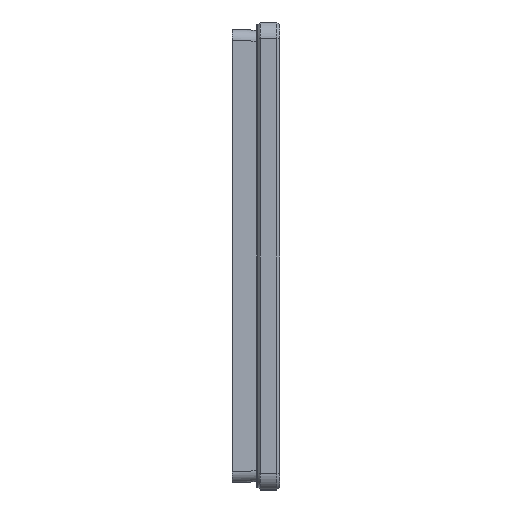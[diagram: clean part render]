
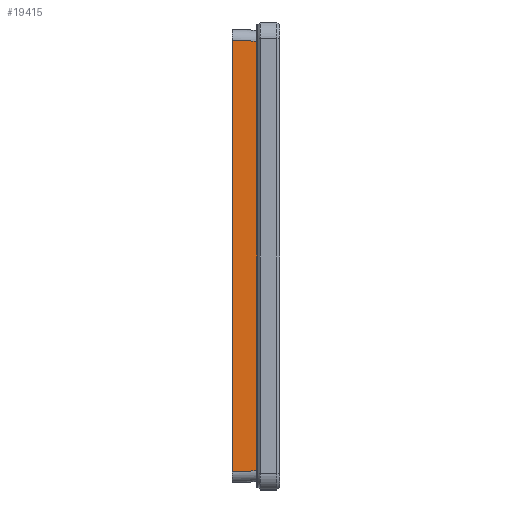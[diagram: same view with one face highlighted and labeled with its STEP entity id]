
A CAD part, left-side view. The second image highlights one B-rep face of the part: STEP entity #19415.
In plain terms, the highlighted planar face has unit normal (-0.999, -0.044, 0) as drawn and (0.999, 0.044, 0) by its records, which use the part's own axes.
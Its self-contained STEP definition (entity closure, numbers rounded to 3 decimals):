
#462=PLANE('',#20728);
#2032=FACE_OUTER_BOUND('',#3154,.T.);
#3154=EDGE_LOOP('',(#15798,#15799,#15800,#15801));
#4888=LINE('',#32996,#6800);
#4890=LINE('',#33002,#6802);
#4891=LINE('',#33004,#6803);
#4892=LINE('',#33005,#6804);
#6800=VECTOR('',#23903,4.509);
#6802=VECTOR('',#23909,78.004);
#6803=VECTOR('',#23910,4.509);
#6804=VECTOR('',#23911,78.397);
#9086=VERTEX_POINT('',#32993);
#9087=VERTEX_POINT('',#32995);
#9089=VERTEX_POINT('',#33001);
#9090=VERTEX_POINT('',#33003);
#11521=EDGE_CURVE('',#9086,#9087,#4888,.T.);
#11524=EDGE_CURVE('',#9089,#9086,#4890,.T.);
#11525=EDGE_CURVE('',#9090,#9089,#4891,.T.);
#11526=EDGE_CURVE('',#9090,#9087,#4892,.T.);
#15798=ORIENTED_EDGE('',*,*,#11521,.F.);
#15799=ORIENTED_EDGE('',*,*,#11524,.F.);
#15800=ORIENTED_EDGE('',*,*,#11525,.F.);
#15801=ORIENTED_EDGE('',*,*,#11526,.T.);
#19415=ADVANCED_FACE('',(#2032),#462,.T.);
#20728=AXIS2_PLACEMENT_3D('',#33000,#23907,#23908);
#23903=DIRECTION('',(0.044,-0.998,-0.044));
#23907=DIRECTION('center_axis',(0.999,0.044,0.));
#23908=DIRECTION('ref_axis',(0.,0.,
-1.));
#23909=DIRECTION('',(0.,0.,-1.));
#23910=DIRECTION('',(-0.044,0.998,-0.044));
#23911=DIRECTION('',(0.,0.,-1.));
#32993=CARTESIAN_POINT('',(173.8,4.5,-74.402));
#32995=CARTESIAN_POINT('',(173.996,0.,-74.598));
#32996=CARTESIAN_POINT('',(173.8,4.5,-74.402));
#33000=CARTESIAN_POINT('Origin',(173.996,0.004,5.6));
#33001=CARTESIAN_POINT('',(173.8,4.5,3.602));
#33002=CARTESIAN_POINT('',(173.8,4.5,3.602));
#33003=CARTESIAN_POINT('',(173.996,0.,3.798));
#33004=CARTESIAN_POINT('',(173.996,0.,3.798));
#33005=CARTESIAN_POINT('',(173.996,0.,3.798));
